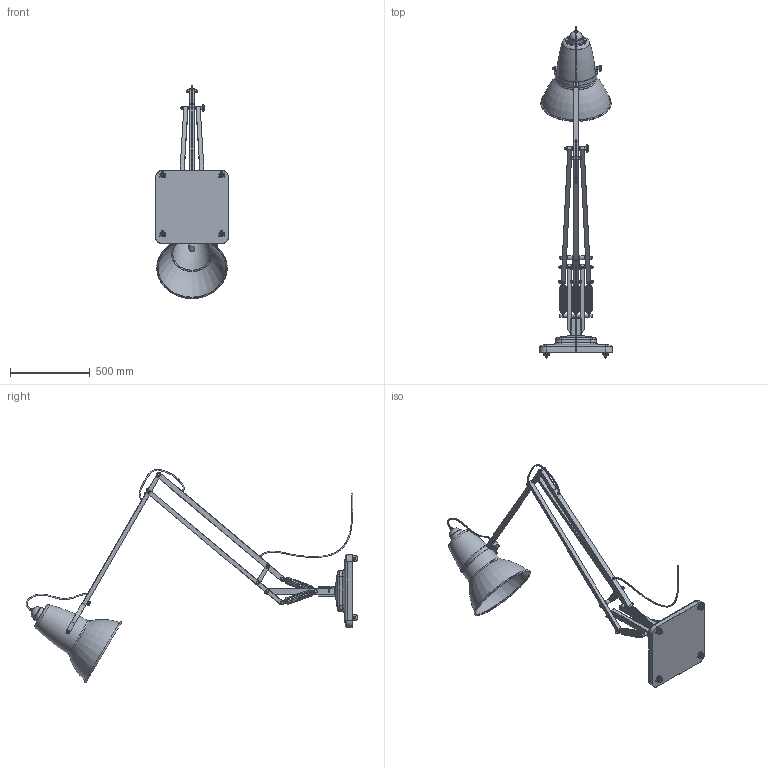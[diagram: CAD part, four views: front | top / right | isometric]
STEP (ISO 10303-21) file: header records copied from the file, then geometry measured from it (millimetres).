
FILE_DESCRIPTION (( 'STEP AP214' ), '1' );
FILE_NAME ('Original_1227_Giant_Floor_Lamp_STEP_01.STEP', '2016-04-01T11:16:09', ( '' ), ( '' ), 'SwSTEP 2.0', 'SolidWorks 2015', '' );
FILE_SCHEMA (( 'AUTOMOTIVE_DESIGN' ));
Length unit declared in the file: millimetre
Products named in the file (1): Original_1227_Giant_Floor_Lamp_STEP_01
Bounding box: 460.29 x 2087.58 x 1340.62 mm (x, y, z)
Volume: 19104030.1 mm3; surface area: 2334433.4 mm2
Topology: 1 solids, 6 shells, 2540 faces, 6326 edges, 3481 vertices
Faces by surface type: bspline 1121, plane 537, cylinder 427, torus 238, cone 159, sphere 58
Full cylindrical faces by diameter (mm): 3.3 x6, 6 x2, 7.1 x12, 7.8 x2, 8.85 x1, 9 x2, 9.1 x4, 9.3 x4, 10 x1, 11.9 x11, 11.95 x2, 11.96 x4, 12 x24, 12.3 x1, 13.45 x4, 15.2 x2, 15.85 x2, 16 x1, 17 x11, 17.8 x1, 19 x6, 19.8 x13, 19.85 x1, 20 x2, 20.3 x1, 24 x9, 25 x4, 28.3 x1, 37.5 x1, 54 x1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
Entity records: 128578 total; most frequent: CARTESIAN_POINT 81883, ORIENTED_EDGE 10790, DIRECTION 7406, EDGE_CURVE 5395, VERTEX_POINT 3289, AXIS2_PLACEMENT_3D 3147, EDGE_LOOP 3084, FACE_OUTER_BOUND 2784
